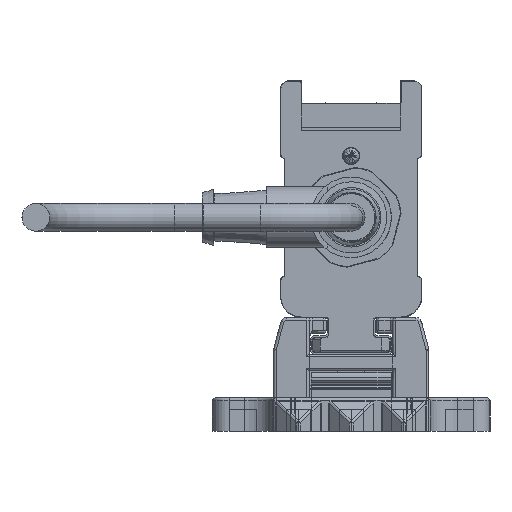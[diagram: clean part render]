
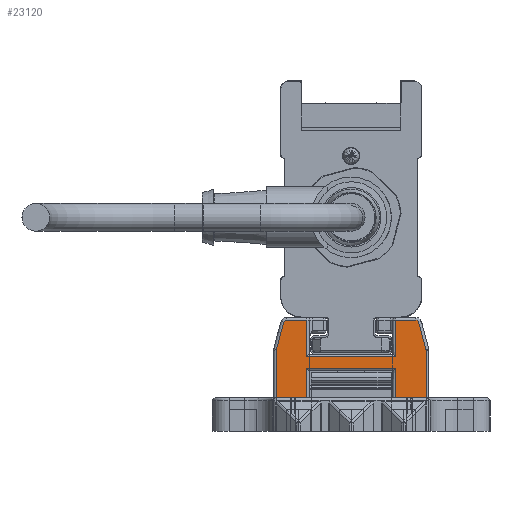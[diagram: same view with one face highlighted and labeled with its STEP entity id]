
A CAD part, left-side view. The second image highlights one B-rep face of the part: STEP entity #23120.
In plain terms, the highlighted planar face has unit normal (-1, 0, 0).
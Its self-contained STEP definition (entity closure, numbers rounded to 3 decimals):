
#23120=ADVANCED_FACE('', (#23130), #23140, .T.);
#117610=AXIS2_PLACEMENT_3D('Ax2Pl3d', #117620, #117630, #117640);
#117850=AXIS2_PLACEMENT_3D('Ax2Pl3d', #117860, #117870, #117880);
#122730=AXIS2_PLACEMENT_3D('Ax2Pl3d', #122740, #122750, #122760);
#127810=AXIS2_PLACEMENT_3D('Ax2Pl3d', #127820, #127830, #127840);
#137490=AXIS2_PLACEMENT_3D('Ax2Pl3d', #137500, #137510, #137520);
#453240=CARTESIAN_POINT('', (-747.669,-2166.345,
331.37));
#117620=CARTESIAN_POINT('HicPkt', (-747.669,-2165.379,
331.111));
#453250=CARTESIAN_POINT('', (-747.669,-2166.379,331.111))
;
#453260=CARTESIAN_POINT('', (-747.669,-2165.037,
336.255));
#453280=CARTESIAN_POINT('', (-747.669,-2165.037,
336.255));
#453310=CARTESIAN_POINT('', (-747.669,-2164.554,
336.625));
#117860=CARTESIAN_POINT('HicPkt', (-747.669,-2164.554,
336.125));
#453530=CARTESIAN_POINT('', (-747.669,-2166.379,
322.625));
#453540=CARTESIAN_POINT('', (-747.669,-2160.881,322.625)
);
#453550=CARTESIAN_POINT('', (-747.669,-2160.881,322.625)
);
#453630=CARTESIAN_POINT('', (-747.669,-2144.881,322.625)
);
#453640=CARTESIAN_POINT('', (-747.669,-2139.383,322.625)
);
#453650=CARTESIAN_POINT('', (-747.669,-2139.383,322.625)
);
#122740=CARTESIAN_POINT('HicPkt', (-747.669,-2141.209,
336.125));
#456120=CARTESIAN_POINT('', (-747.669,-2140.726,
336.255));
#456130=CARTESIAN_POINT('', (-747.669,-2141.209,336.625)
);
#456140=CARTESIAN_POINT('', (-747.669,-2160.881,
330.025));
#456150=CARTESIAN_POINT('', (-747.669,-2144.881,
330.025));
#456160=CARTESIAN_POINT('', (-747.669,-2160.881,
330.025));
#456320=CARTESIAN_POINT('', (-747.669,-2160.881,
328.005));
#456330=CARTESIAN_POINT('', (-747.669,-2144.881,
328.005));
#456340=CARTESIAN_POINT('', (-747.669,-2144.881,
328.005));
#456350=CARTESIAN_POINT('', (-747.669,-2160.881,
328.005));
#456370=CARTESIAN_POINT('', (-747.669,-2144.881,322.625)
);
#456380=CARTESIAN_POINT('', (-747.669,-2144.881,
330.025));
#456390=CARTESIAN_POINT('', (-747.669,-2144.881,
336.625));
#457240=CARTESIAN_POINT('', (-747.669,-2144.881,
336.625));
#457250=CARTESIAN_POINT('', (-747.669,-2140.726,
336.255));
#457260=CARTESIAN_POINT('', (-747.669,-2139.417,
331.37));
#457450=CARTESIAN_POINT('', (-747.669,-2139.383,
331.111));
#457460=CARTESIAN_POINT('', (-747.669,-2139.383,
331.111));
#127820=CARTESIAN_POINT('HicPkt', (-747.669,-2140.383,
331.111));
#458270=CARTESIAN_POINT('', (-747.669,-2166.379,331.111))
;
#137500=CARTESIAN_POINT('HicPkt', (-747.669,-2164.554,
336.625));
#460070=CARTESIAN_POINT('', (-747.669,-2160.881,
336.625));
#460080=CARTESIAN_POINT('', (-747.669,-2160.881,
336.625));
#460090=CARTESIAN_POINT('', (-747.669,-2160.881,
336.625));
#522140=CIRCLE('Circle', #117610, 1.);
#522180=CIRCLE('Circle', #117850, 0.5);
#522760=CIRCLE('Circle', #122730, 0.5);
#523290=CIRCLE('Circle', #127810, 1.);
#117630=DIRECTION('Axis', (-1.,0.,
0.));
#117640=DIRECTION('RefDirection', (0.,
0.,-1.));
#730180=DIRECTION('', (0.,0.259,
0.966));
#117870=DIRECTION('Axis', (-1.,0.,
0.));
#117880=DIRECTION('RefDirection', (0.,
0.,-1.));
#730290=DIRECTION('', (0.,1.,0.));
#730330=DIRECTION('', (0.,1.,0.));
#122750=DIRECTION('Axis', (1.,0.,
0.));
#122760=DIRECTION('RefDirection', (0.,
0.,-1.));
#731520=DIRECTION('', (0.,-1.,0.));
#731620=DIRECTION('', (0.,1.,0.));
#731630=DIRECTION('', (0.,0.,1.));
#731650=DIRECTION('', (0.,0.,-1.));
#731660=DIRECTION('', (0.,0.,-1.));
#732090=DIRECTION('', (0.,-1.,0.));
#732100=DIRECTION('', (0.,-0.259,0.966));
#732190=DIRECTION('', (0.,0.,1.));
#127830=DIRECTION('Axis', (1.,0.,
0.));
#127840=DIRECTION('RefDirection', (0.,
0.,-1.));
#732560=DIRECTION('', (0.,0.,1.));
#137510=DIRECTION('Axis', (-1.,0.,
0.));
#137520=DIRECTION('RefDirection', (0.,
0.,-1.));
#733400=DIRECTION('', (0.,1.,0.));
#733410=DIRECTION('', (0.,0.,1.));
#785930=EDGE_CURVE('', #785940, #785920, #522140, .T.);
#785990=EDGE_CURVE('', #785920, #785970, #786000, .T.);
#786060=EDGE_CURVE('', #785970, #786050, #522180, .T.);
#786510=EDGE_CURVE('', #786500, #786520, #786530, .T.);
#786670=EDGE_CURVE('', #786660, #786680, #786690, .T.);
#791030=EDGE_CURVE('', #791040, #791050, #522760, .T.);
#791080=EDGE_CURVE('', #791090, #791100, #791110, .T.);
#791450=EDGE_CURVE('', #791430, #791460, #791470, .T.);
#791500=EDGE_CURVE('', #786520, #791430, #791510, .T.);
#791540=EDGE_CURVE('', #791460, #786660, #791550, .T.);
#791560=EDGE_CURVE('', #791570, #791090, #791580, .T.);
#793400=EDGE_CURVE('', #791050, #791570, #793410, .T.);
#793470=EDGE_CURVE('', #793480, #791040, #793490, .T.);
#793910=EDGE_CURVE('', #786680, #793920, #793930, .T.);
#793950=EDGE_CURVE('', #793920, #793480, #523290, .T.);
#795660=EDGE_CURVE('', #786500, #785940, #795670, .T.);
#799470=EDGE_CURVE('', #786050, #799480, #799490, .T.);
#799500=EDGE_CURVE('', #791100, #799480, #799510, .T.);
#950330=EDGE_LOOP('Edge_loop', (#950340,#950350,#950360,#950370,#950380,
#950390,#950400,#950410,#950420,#950430,#950440,#950450,#950460,#950470,
#950480,#950490,#950500,#950510));
#23130=FACE_OUTER_BOUND('Face_outer_bound', #950330, .T.);
#786000=LINE('Line', #453280, #1078570);
#786530=LINE('Line', #453540, #1078680);
#786690=LINE('Line', #453640, #1078720);
#791110=LINE('Line', #456140, #1079910);
#791470=LINE('Line', #456330, #1080010);
#791510=LINE('Line', #456350, #1080020);
#791550=LINE('Line', #456370, #1080040);
#791580=LINE('Line', #456380, #1080050);
#793410=LINE('Line', #457240, #1080480);
#793490=LINE('Line', #457250, #1080490);
#793930=LINE('Line', #457450, #1080580);
#795670=LINE('Line', #458270, #1080950);
#799490=LINE('Line', #460070, #1081790);
#799510=LINE('Line', #460090, #1081800);
#950340=ORIENTED_EDGE('', *, *, #799470, .T.);
#950350=ORIENTED_EDGE('', *, *, #799500, .F.);
#950360=ORIENTED_EDGE('', *, *, #791080, .F.);
#950370=ORIENTED_EDGE('', *, *, #791560, .F.);
#950380=ORIENTED_EDGE('', *, *, #793400, .F.);
#950390=ORIENTED_EDGE('', *, *, #791030, .F.);
#950400=ORIENTED_EDGE('', *, *, #793470, .F.);
#950410=ORIENTED_EDGE('', *, *, #793950, .F.);
#950420=ORIENTED_EDGE('', *, *, #793910, .F.);
#950430=ORIENTED_EDGE('', *, *, #786670, .F.);
#950440=ORIENTED_EDGE('', *, *, #791540, .F.);
#950450=ORIENTED_EDGE('', *, *, #791450, .F.);
#950460=ORIENTED_EDGE('', *, *, #791500, .F.);
#950470=ORIENTED_EDGE('', *, *, #786510, .F.);
#950480=ORIENTED_EDGE('', *, *, #795660, .T.);
#950490=ORIENTED_EDGE('', *, *, #785930, .T.);
#950500=ORIENTED_EDGE('', *, *, #785990, .T.);
#950510=ORIENTED_EDGE('', *, *, #786060, .T.);
#23140=PLANE('Plane', #137490);
#1078570=VECTOR('', #730180, 5.057);
#1078680=VECTOR('', #730290, 5.498);
#1078720=VECTOR('', #730330, 5.498);
#1079910=VECTOR('', #731520, 16.);
#1080010=VECTOR('', #731620, 16.);
#1080020=VECTOR('', #731630, 5.38);
#1080040=VECTOR('', #731650, 5.38);
#1080050=VECTOR('', #731660, 6.6);
#1080480=VECTOR('', #732090, 3.672);
#1080490=VECTOR('', #732100, 5.057);
#1080580=VECTOR('', #732190, 8.486);
#1080950=VECTOR('', #732560, 8.486);
#1081790=VECTOR('', #733400, 3.672);
#1081800=VECTOR('', #733410, 6.6);
#785920=VERTEX_POINT('', #453240);
#785940=VERTEX_POINT('', #453250);
#785970=VERTEX_POINT('', #453260);
#786050=VERTEX_POINT('', #453310);
#786500=VERTEX_POINT('', #453530);
#786520=VERTEX_POINT('', #453550);
#786660=VERTEX_POINT('', #453630);
#786680=VERTEX_POINT('', #453650);
#791040=VERTEX_POINT('', #456120);
#791050=VERTEX_POINT('', #456130);
#791090=VERTEX_POINT('', #456150);
#791100=VERTEX_POINT('', #456160);
#791430=VERTEX_POINT('', #456320);
#791460=VERTEX_POINT('', #456340);
#791570=VERTEX_POINT('', #456390);
#793480=VERTEX_POINT('', #457260);
#793920=VERTEX_POINT('', #457460);
#799480=VERTEX_POINT('', #460080);
